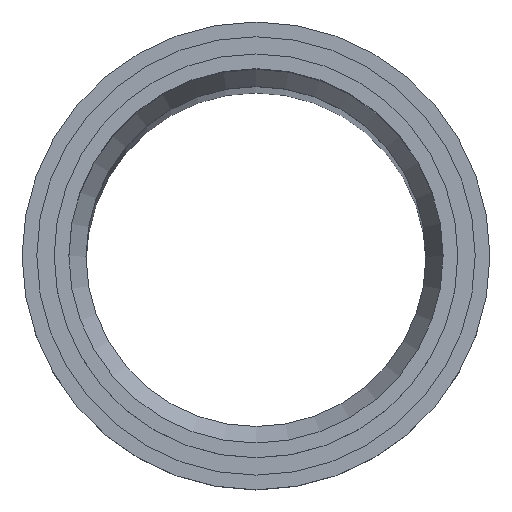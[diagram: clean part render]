
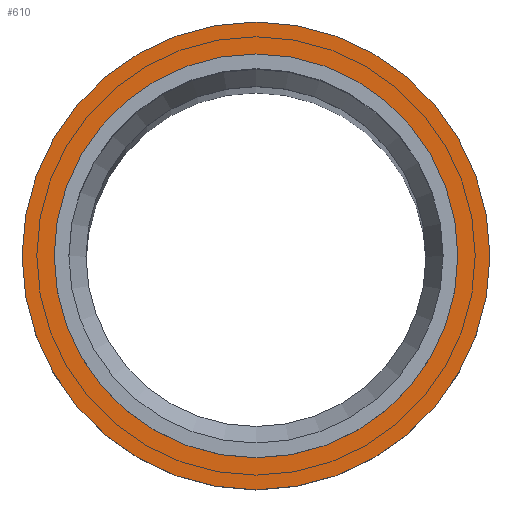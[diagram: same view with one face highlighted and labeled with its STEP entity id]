
A CAD part, top view. The second image highlights one B-rep face of the part: STEP entity #610.
In plain terms, the highlighted planar face has unit normal (0, 0, 1) as drawn and (1, 0, 0) by its records, which use the part's own axes.
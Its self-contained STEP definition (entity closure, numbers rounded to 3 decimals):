
#97=PLANE('',#754);
#122=FACE_BOUND('',#237,.T.);
#169=FACE_OUTER_BOUND('',#236,.T.);
#236=EDGE_LOOP('',(#543));
#237=EDGE_LOOP('',(#544));
#286=CIRCLE('',#753,31.75);
#287=CIRCLE('',#755,27.4);
#341=VERTEX_POINT('',#1790);
#342=VERTEX_POINT('',#1793);
#412=EDGE_CURVE('',#341,#341,#286,.T.);
#413=EDGE_CURVE('',#342,#342,#287,.T.);
#543=ORIENTED_EDGE('',*,*,#412,.T.);
#544=ORIENTED_EDGE('',*,*,#413,.F.);
#610=ADVANCED_FACE('',(#169,#122),#97,.T.);
#753=AXIS2_PLACEMENT_3D('',#1791,#911,#912);
#754=AXIS2_PLACEMENT_3D('',#1792,#913,#914);
#755=AXIS2_PLACEMENT_3D('',#1794,#915,#916);
#911=DIRECTION('center_axis',(1.,0.,0.));
#912=DIRECTION('ref_axis',(0.,1.,0.));
#913=DIRECTION('center_axis',(1.,0.,0.));
#914=DIRECTION('ref_axis',(0.,0.,-1.));
#915=DIRECTION('center_axis',(1.,0.,0.));
#916=DIRECTION('ref_axis',(0.,1.,0.));
#1790=CARTESIAN_POINT('',(57.,31.75,0.));
#1791=CARTESIAN_POINT('Origin',(57.,0.,0.));
#1792=CARTESIAN_POINT('Origin',(57.,29.575,0.));
#1793=CARTESIAN_POINT('',(57.,27.4,0.));
#1794=CARTESIAN_POINT('Origin',(57.,0.,0.));
